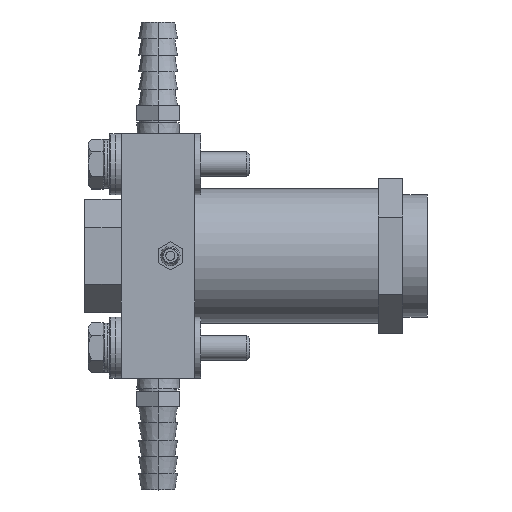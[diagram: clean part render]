
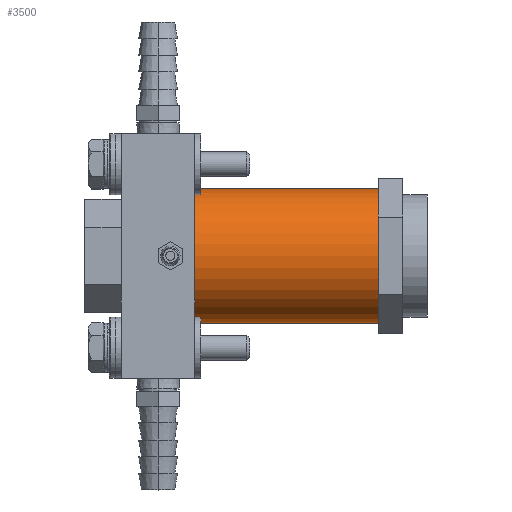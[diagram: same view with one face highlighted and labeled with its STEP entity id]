
A CAD part, top view. The second image highlights one B-rep face of the part: STEP entity #3500.
In plain terms, the highlighted cylindrical face has radius 17.462 mm (diameter 34.925 mm), a partial arc.
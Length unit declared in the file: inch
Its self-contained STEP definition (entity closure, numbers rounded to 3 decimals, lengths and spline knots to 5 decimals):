
#3430=CARTESIAN_POINT('',(-0.5,0.,0.));
#3431=DIRECTION('',(1.,0.,0.));
#3432=DIRECTION('',(0.,1.,0.));
#3433=AXIS2_PLACEMENT_3D('',#3430,#3431,#3432);
#3435=DIRECTION('',(1.,0.,0.));
#3436=VECTOR('',#3435,1.875);
#3437=CARTESIAN_POINT('',(-2.375,-0.6875,0.));
#3438=LINE('',#3437,#3436);
#3439=DIRECTION('',(1.,0.,0.));
#3440=VECTOR('',#3439,1.875);
#3441=CARTESIAN_POINT('',(-2.375,0.6875,0.));
#3442=LINE('',#3441,#3440);
#3443=CARTESIAN_POINT('',(-2.375,0.,0.));
#3444=DIRECTION('',(-1.,0.,0.));
#3445=DIRECTION('',(0.,-1.,0.));
#3446=AXIS2_PLACEMENT_3D('',#3443,#3444,#3445);
#3453=CARTESIAN_POINT('',(-2.375,0.6875,0.));
#3454=CARTESIAN_POINT('',(-0.5,0.6875,0.));
#3455=VERTEX_POINT('',#3453);
#3456=VERTEX_POINT('',#3454);
#3457=CARTESIAN_POINT('',(-2.375,-0.6875,0.));
#3458=CARTESIAN_POINT('',(-0.5,-0.6875,0.));
#3459=VERTEX_POINT('',#3457);
#3460=VERTEX_POINT('',#3458);
#3488=CARTESIAN_POINT('',(-2.375,0.,0.));
#3489=DIRECTION('',(1.,0.,0.));
#3490=DIRECTION('',(0.,-1.,0.));
#3491=AXIS2_PLACEMENT_3D('',#3488,#3489,#3490);
#3492=CYLINDRICAL_SURFACE('',#3491,0.6875);
#3493=ORIENTED_EDGE('',*,*,#3483,.T.);
#3494=ORIENTED_EDGE('',*,*,#3472,.F.);
#3496=ORIENTED_EDGE('',*,*,#3495,.T.);
#3497=ORIENTED_EDGE('',*,*,#3468,.T.);
#3498=EDGE_LOOP('',(#3493,#3494,#3496,#3497));
#3499=FACE_OUTER_BOUND('',#3498,.F.);
#3434=CIRCLE('',#3433,0.6875);
#3447=CIRCLE('',#3446,0.6875);
#3468=EDGE_CURVE('',#3455,#3456,#3442,.T.);
#3472=EDGE_CURVE('',#3459,#3460,#3438,.T.);
#3483=EDGE_CURVE('',#3456,#3460,#3434,.T.);
#3495=EDGE_CURVE('',#3459,#3455,#3447,.T.);
#3500=ADVANCED_FACE('',(#3499),#3492,.T.);
